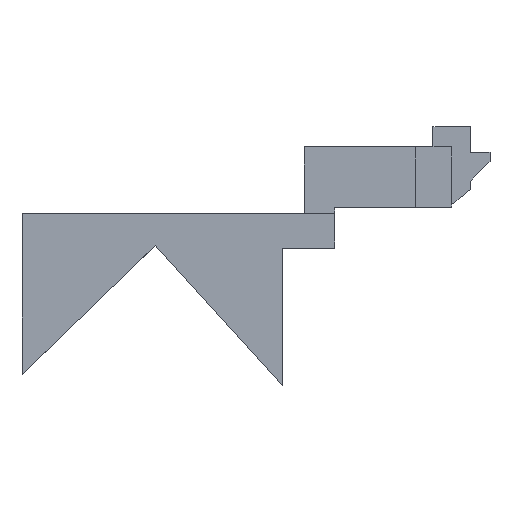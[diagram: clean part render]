
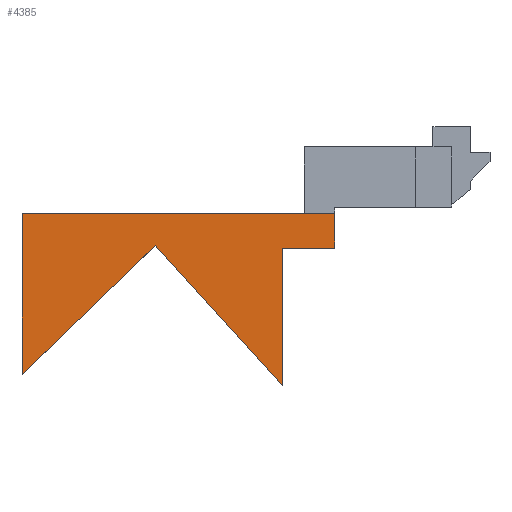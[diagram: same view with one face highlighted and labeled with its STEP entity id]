
A CAD part, front view. The second image highlights one B-rep face of the part: STEP entity #4385.
In plain terms, the highlighted planar face has unit normal (0, -1, 0).
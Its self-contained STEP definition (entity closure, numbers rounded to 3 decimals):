
#2156 = PLANE('',#2157);
#2157 = AXIS2_PLACEMENT_3D('',#2158,#2159,#2160);
#2158 = CARTESIAN_POINT('',(3.,3.,86.));
#2159 = DIRECTION('',(1.,0.,0.));
#2160 = DIRECTION('',(0.,0.,1.));
#2184 = PLANE('',#2185);
#2185 = AXIS2_PLACEMENT_3D('',#2186,#2187,#2188);
#2186 = CARTESIAN_POINT('',(-6.,51.5,92.));
#2187 = DIRECTION('',(-0.,-0.,-1.));
#2188 = DIRECTION('',(-1.,0.,0.));
#2376 = PLANE('',#2377);
#2377 = AXIS2_PLACEMENT_3D('',#2378,#2379,#2380);
#2378 = CARTESIAN_POINT('',(-8.,3.,86.));
#2379 = DIRECTION('',(0.,0.,1.));
#2380 = DIRECTION('',(1.,0.,0.));
#2404 = PLANE('',#2405);
#2405 = AXIS2_PLACEMENT_3D('',#2406,#2407,#2408);
#2406 = CARTESIAN_POINT('',(-6.,51.5,62.287));
#2407 = DIRECTION('',(-1.,0.,0.));
#2408 = DIRECTION('',(0.,0.,1.));
#2432 = PLANE('',#2433);
#2433 = AXIS2_PLACEMENT_3D('',#2434,#2435,#2436);
#2434 = CARTESIAN_POINT('',(-28.,51.5,86.5));
#2435 = DIRECTION('',(0.74,0.,0.672));
#2436 = DIRECTION('',(0.672,0.,-0.74));
#2460 = PLANE('',#2461);
#2461 = AXIS2_PLACEMENT_3D('',#2462,#2463,#2464);
#2462 = CARTESIAN_POINT('',(-51.,51.5,64.203));
#2463 = DIRECTION('',(-0.696,0.,0.718));
#2464 = DIRECTION('',(0.718,0.,0.696));
#2488 = PLANE('',#2489);
#2489 = AXIS2_PLACEMENT_3D('',#2490,#2491,#2492);
#2490 = CARTESIAN_POINT('',(-51.,51.5,92.));
#2491 = DIRECTION('',(1.,0.,0.));
#2492 = DIRECTION('',(0.,0.,-1.));
#3685 = VERTEX_POINT('',#3686);
#3686 = CARTESIAN_POINT('',(3.,3.,92.));
#3707 = EDGE_CURVE('',#3708,#3685,#3710,.T.);
#3708 = VERTEX_POINT('',#3709);
#3709 = CARTESIAN_POINT('',(3.,3.,86.));
#3710 = SURFACE_CURVE('',#3711,(#3715,#3722),.PCURVE_S1.);
#3711 = LINE('',#3712,#3713);
#3712 = CARTESIAN_POINT('',(3.,3.,86.));
#3713 = VECTOR('',#3714,1.);
#3714 = DIRECTION('',(0.,0.,1.));
#3715 = PCURVE('',#2156,#3716);
#3716 = DEFINITIONAL_REPRESENTATION('',(#3717),#3721);
#3717 = LINE('',#3718,#3719);
#3718 = CARTESIAN_POINT('',(0.,0.));
#3719 = VECTOR('',#3720,1.);
#3720 = DIRECTION('',(1.,0.));
#3721 = ( GEOMETRIC_REPRESENTATION_CONTEXT(2) 
PARAMETRIC_REPRESENTATION_CONTEXT() REPRESENTATION_CONTEXT('2D SPACE',''
  ) );
#3722 = PCURVE('',#3723,#3728);
#3723 = PLANE('',#3724);
#3724 = AXIS2_PLACEMENT_3D('',#3725,#3726,#3727);
#3725 = CARTESIAN_POINT('',(-28.1,3.,80.419));
#3726 = DIRECTION('',(-0.,-1.,-0.));
#3727 = DIRECTION('',(0.,0.,-1.));
#3728 = DEFINITIONAL_REPRESENTATION('',(#3729),#3733);
#3729 = LINE('',#3730,#3731);
#3730 = CARTESIAN_POINT('',(-5.581,31.1));
#3731 = VECTOR('',#3732,1.);
#3732 = DIRECTION('',(-1.,0.));
#3733 = ( GEOMETRIC_REPRESENTATION_CONTEXT(2) 
PARAMETRIC_REPRESENTATION_CONTEXT() REPRESENTATION_CONTEXT('2D SPACE',''
  ) );
#3763 = VERTEX_POINT('',#3764);
#3764 = CARTESIAN_POINT('',(-51.,3.,92.));
#3789 = EDGE_CURVE('',#3685,#3763,#3790,.T.);
#3790 = SURFACE_CURVE('',#3791,(#3795,#3802),.PCURVE_S1.);
#3791 = LINE('',#3792,#3793);
#3792 = CARTESIAN_POINT('',(3.,3.,92.));
#3793 = VECTOR('',#3794,1.);
#3794 = DIRECTION('',(-1.,0.,0.));
#3795 = PCURVE('',#2184,#3796);
#3796 = DEFINITIONAL_REPRESENTATION('',(#3797),#3801);
#3797 = LINE('',#3798,#3799);
#3798 = CARTESIAN_POINT('',(-9.,-48.5));
#3799 = VECTOR('',#3800,1.);
#3800 = DIRECTION('',(1.,0.));
#3801 = ( GEOMETRIC_REPRESENTATION_CONTEXT(2) 
PARAMETRIC_REPRESENTATION_CONTEXT() REPRESENTATION_CONTEXT('2D SPACE',''
  ) );
#3802 = PCURVE('',#3723,#3803);
#3803 = DEFINITIONAL_REPRESENTATION('',(#3804),#3808);
#3804 = LINE('',#3805,#3806);
#3805 = CARTESIAN_POINT('',(-11.581,31.1));
#3806 = VECTOR('',#3807,1.);
#3807 = DIRECTION('',(0.,-1.));
#3808 = ( GEOMETRIC_REPRESENTATION_CONTEXT(2) 
PARAMETRIC_REPRESENTATION_CONTEXT() REPRESENTATION_CONTEXT('2D SPACE',''
  ) );
#3907 = VERTEX_POINT('',#3908);
#3908 = CARTESIAN_POINT('',(-6.,3.,86.));
#3928 = EDGE_CURVE('',#3907,#3708,#3929,.T.);
#3929 = SURFACE_CURVE('',#3930,(#3934,#3941),.PCURVE_S1.);
#3930 = LINE('',#3931,#3932);
#3931 = CARTESIAN_POINT('',(-8.,3.,86.));
#3932 = VECTOR('',#3933,1.);
#3933 = DIRECTION('',(1.,0.,0.));
#3934 = PCURVE('',#2376,#3935);
#3935 = DEFINITIONAL_REPRESENTATION('',(#3936),#3940);
#3936 = LINE('',#3937,#3938);
#3937 = CARTESIAN_POINT('',(0.,0.));
#3938 = VECTOR('',#3939,1.);
#3939 = DIRECTION('',(1.,0.));
#3940 = ( GEOMETRIC_REPRESENTATION_CONTEXT(2) 
PARAMETRIC_REPRESENTATION_CONTEXT() REPRESENTATION_CONTEXT('2D SPACE',''
  ) );
#3941 = PCURVE('',#3723,#3942);
#3942 = DEFINITIONAL_REPRESENTATION('',(#3943),#3947);
#3943 = LINE('',#3944,#3945);
#3944 = CARTESIAN_POINT('',(-5.581,20.1));
#3945 = VECTOR('',#3946,1.);
#3946 = DIRECTION('',(0.,1.));
#3947 = ( GEOMETRIC_REPRESENTATION_CONTEXT(2) 
PARAMETRIC_REPRESENTATION_CONTEXT() REPRESENTATION_CONTEXT('2D SPACE',''
  ) );
#3956 = VERTEX_POINT('',#3957);
#3957 = CARTESIAN_POINT('',(-6.,3.,62.287));
#3978 = EDGE_CURVE('',#3956,#3907,#3979,.T.);
#3979 = SURFACE_CURVE('',#3980,(#3984,#3991),.PCURVE_S1.);
#3980 = LINE('',#3981,#3982);
#3981 = CARTESIAN_POINT('',(-6.,3.,62.287));
#3982 = VECTOR('',#3983,1.);
#3983 = DIRECTION('',(0.,0.,1.));
#3984 = PCURVE('',#2404,#3985);
#3985 = DEFINITIONAL_REPRESENTATION('',(#3986),#3990);
#3986 = LINE('',#3987,#3988);
#3987 = CARTESIAN_POINT('',(0.,-48.5));
#3988 = VECTOR('',#3989,1.);
#3989 = DIRECTION('',(1.,0.));
#3990 = ( GEOMETRIC_REPRESENTATION_CONTEXT(2) 
PARAMETRIC_REPRESENTATION_CONTEXT() REPRESENTATION_CONTEXT('2D SPACE',''
  ) );
#3991 = PCURVE('',#3723,#3992);
#3992 = DEFINITIONAL_REPRESENTATION('',(#3993),#3997);
#3993 = LINE('',#3994,#3995);
#3994 = CARTESIAN_POINT('',(18.132,22.1));
#3995 = VECTOR('',#3996,1.);
#3996 = DIRECTION('',(-1.,0.));
#3997 = ( GEOMETRIC_REPRESENTATION_CONTEXT(2) 
PARAMETRIC_REPRESENTATION_CONTEXT() REPRESENTATION_CONTEXT('2D SPACE',''
  ) );
#4004 = VERTEX_POINT('',#4005);
#4005 = CARTESIAN_POINT('',(-28.,3.,86.5));
#4026 = EDGE_CURVE('',#4004,#3956,#4027,.T.);
#4027 = SURFACE_CURVE('',#4028,(#4032,#4039),.PCURVE_S1.);
#4028 = LINE('',#4029,#4030);
#4029 = CARTESIAN_POINT('',(-28.,3.,86.5));
#4030 = VECTOR('',#4031,1.);
#4031 = DIRECTION('',(0.672,0.,-0.74));
#4032 = PCURVE('',#2432,#4033);
#4033 = DEFINITIONAL_REPRESENTATION('',(#4034),#4038);
#4034 = LINE('',#4035,#4036);
#4035 = CARTESIAN_POINT('',(0.,-48.5));
#4036 = VECTOR('',#4037,1.);
#4037 = DIRECTION('',(1.,0.));
#4038 = ( GEOMETRIC_REPRESENTATION_CONTEXT(2) 
PARAMETRIC_REPRESENTATION_CONTEXT() REPRESENTATION_CONTEXT('2D SPACE',''
  ) );
#4039 = PCURVE('',#3723,#4040);
#4040 = DEFINITIONAL_REPRESENTATION('',(#4041),#4045);
#4041 = LINE('',#4042,#4043);
#4042 = CARTESIAN_POINT('',(-6.081,0.1));
#4043 = VECTOR('',#4044,1.);
#4044 = DIRECTION('',(0.74,0.672));
#4045 = ( GEOMETRIC_REPRESENTATION_CONTEXT(2) 
PARAMETRIC_REPRESENTATION_CONTEXT() REPRESENTATION_CONTEXT('2D SPACE',''
  ) );
#4053 = VERTEX_POINT('',#4054);
#4054 = CARTESIAN_POINT('',(-51.,3.,64.203));
#4075 = EDGE_CURVE('',#4053,#4004,#4076,.T.);
#4076 = SURFACE_CURVE('',#4077,(#4081,#4088),.PCURVE_S1.);
#4077 = LINE('',#4078,#4079);
#4078 = CARTESIAN_POINT('',(-51.,3.,64.203));
#4079 = VECTOR('',#4080,1.);
#4080 = DIRECTION('',(0.718,0.,0.696));
#4081 = PCURVE('',#2460,#4082);
#4082 = DEFINITIONAL_REPRESENTATION('',(#4083),#4087);
#4083 = LINE('',#4084,#4085);
#4084 = CARTESIAN_POINT('',(0.,-48.5));
#4085 = VECTOR('',#4086,1.);
#4086 = DIRECTION('',(1.,0.));
#4087 = ( GEOMETRIC_REPRESENTATION_CONTEXT(2) 
PARAMETRIC_REPRESENTATION_CONTEXT() REPRESENTATION_CONTEXT('2D SPACE',''
  ) );
#4088 = PCURVE('',#3723,#4089);
#4089 = DEFINITIONAL_REPRESENTATION('',(#4090),#4094);
#4090 = LINE('',#4091,#4092);
#4091 = CARTESIAN_POINT('',(16.216,-22.9));
#4092 = VECTOR('',#4093,1.);
#4093 = DIRECTION('',(-0.696,0.718));
#4094 = ( GEOMETRIC_REPRESENTATION_CONTEXT(2) 
PARAMETRIC_REPRESENTATION_CONTEXT() REPRESENTATION_CONTEXT('2D SPACE',''
  ) );
#4261 = EDGE_CURVE('',#3763,#4053,#4262,.T.);
#4262 = SURFACE_CURVE('',#4263,(#4267,#4274),.PCURVE_S1.);
#4263 = LINE('',#4264,#4265);
#4264 = CARTESIAN_POINT('',(-51.,3.,92.));
#4265 = VECTOR('',#4266,1.);
#4266 = DIRECTION('',(0.,0.,-1.));
#4267 = PCURVE('',#2488,#4268);
#4268 = DEFINITIONAL_REPRESENTATION('',(#4269),#4273);
#4269 = LINE('',#4270,#4271);
#4270 = CARTESIAN_POINT('',(0.,-48.5));
#4271 = VECTOR('',#4272,1.);
#4272 = DIRECTION('',(1.,0.));
#4273 = ( GEOMETRIC_REPRESENTATION_CONTEXT(2) 
PARAMETRIC_REPRESENTATION_CONTEXT() REPRESENTATION_CONTEXT('2D SPACE',''
  ) );
#4274 = PCURVE('',#3723,#4275);
#4275 = DEFINITIONAL_REPRESENTATION('',(#4276),#4280);
#4276 = LINE('',#4277,#4278);
#4277 = CARTESIAN_POINT('',(-11.581,-22.9));
#4278 = VECTOR('',#4279,1.);
#4279 = DIRECTION('',(1.,0.));
#4280 = ( GEOMETRIC_REPRESENTATION_CONTEXT(2) 
PARAMETRIC_REPRESENTATION_CONTEXT() REPRESENTATION_CONTEXT('2D SPACE',''
  ) );
#4385 = ADVANCED_FACE('',(#4386),#3723,.T.);
#4386 = FACE_BOUND('',#4387,.T.);
#4387 = EDGE_LOOP('',(#4388,#4389,#4390,#4391,#4392,#4393,#4394));
#4388 = ORIENTED_EDGE('',*,*,#4261,.T.);
#4389 = ORIENTED_EDGE('',*,*,#4075,.T.);
#4390 = ORIENTED_EDGE('',*,*,#4026,.T.);
#4391 = ORIENTED_EDGE('',*,*,#3978,.T.);
#4392 = ORIENTED_EDGE('',*,*,#3928,.T.);
#4393 = ORIENTED_EDGE('',*,*,#3707,.T.);
#4394 = ORIENTED_EDGE('',*,*,#3789,.T.);
